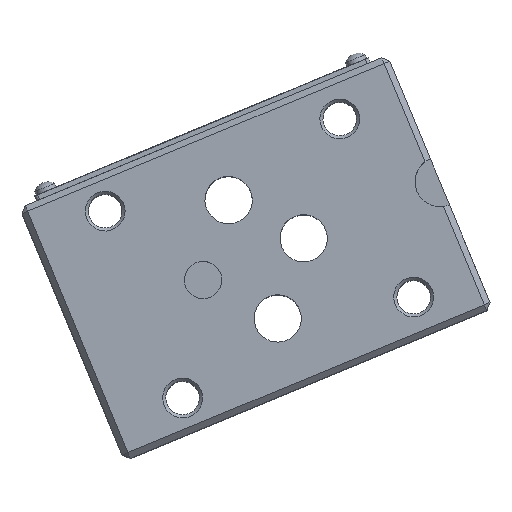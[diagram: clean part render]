
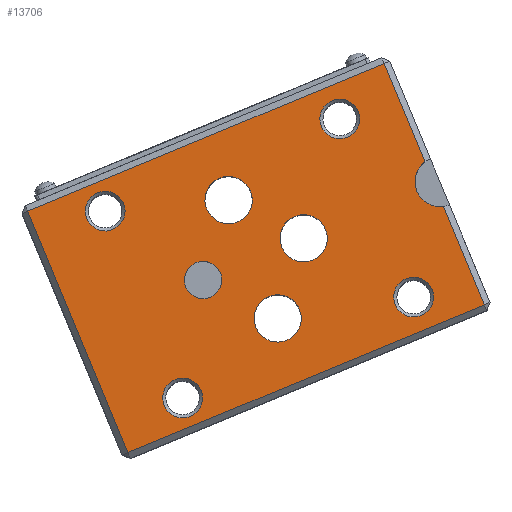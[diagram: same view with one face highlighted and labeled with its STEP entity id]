
A CAD part, top view. The second image highlights one B-rep face of the part: STEP entity #13706.
In plain terms, the highlighted planar face has unit normal (0, 0, 1).
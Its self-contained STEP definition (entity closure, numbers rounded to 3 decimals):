
#9746=LINE('',#40026,#12490);
#9747=LINE('',#40028,#12491);
#9748=LINE('',#40030,#12492);
#9749=LINE('',#40032,#12493);
#9750=LINE('',#40034,#12494);
#12490=VECTOR('',#33368,1.);
#12491=VECTOR('',#33369,1.);
#12492=VECTOR('',#33370,1.);
#12493=VECTOR('',#33371,1.);
#12494=VECTOR('',#33372,1.);
#12651=FACE_BOUND('',#16750,.T.);
#12652=FACE_BOUND('',#16751,.T.);
#12653=FACE_BOUND('',#16752,.T.);
#12654=FACE_BOUND('',#16753,.T.);
#12655=FACE_BOUND('',#16754,.T.);
#12656=FACE_BOUND('',#16755,.T.);
#12657=FACE_BOUND('',#16756,.T.);
#12658=FACE_BOUND('',#16757,.T.);
#12659=FACE_BOUND('',#16758,.T.);
#13706=ADVANCED_FACE('',(#12651,#12652,#12653,#12654,#12655,#12656,#12657,
#12658,#12659),#14646,.T.);
#14646=PLANE('',#28599);
#16750=EDGE_LOOP('',(#22502,#22503,#22504,#22505,#22506,#22507));
#16751=EDGE_LOOP('',(#22508));
#16752=EDGE_LOOP('',(#22509));
#16753=EDGE_LOOP('',(#22510));
#16754=EDGE_LOOP('',(#22511));
#16755=EDGE_LOOP('',(#22512));
#16756=EDGE_LOOP('',(#22513));
#16757=EDGE_LOOP('',(#22514));
#16758=EDGE_LOOP('',(#22515));
#22502=ORIENTED_EDGE('',*,*,#27458,.T.);
#22503=ORIENTED_EDGE('',*,*,#27459,.T.);
#22504=ORIENTED_EDGE('',*,*,#27460,.T.);
#22505=ORIENTED_EDGE('',*,*,#27461,.T.);
#22506=ORIENTED_EDGE('',*,*,#27462,.T.);
#22507=ORIENTED_EDGE('',*,*,#27463,.T.);
#22508=ORIENTED_EDGE('',*,*,#27423,.F.);
#22509=ORIENTED_EDGE('',*,*,#27464,.F.);
#22510=ORIENTED_EDGE('',*,*,#27465,.F.);
#22511=ORIENTED_EDGE('',*,*,#27466,.F.);
#22512=ORIENTED_EDGE('',*,*,#27467,.T.);
#22513=ORIENTED_EDGE('',*,*,#27468,.T.);
#22514=ORIENTED_EDGE('',*,*,#27469,.T.);
#22515=ORIENTED_EDGE('',*,*,#27470,.T.);
#24539=VERTEX_POINT('',#39948);
#24574=VERTEX_POINT('',#40024);
#24575=VERTEX_POINT('',#40025);
#24576=VERTEX_POINT('',#40027);
#24577=VERTEX_POINT('',#40029);
#24578=VERTEX_POINT('',#40031);
#24579=VERTEX_POINT('',#40033);
#24580=VERTEX_POINT('',#40036);
#24581=VERTEX_POINT('',#40038);
#24582=VERTEX_POINT('',#40040);
#24583=VERTEX_POINT('',#40042);
#24584=VERTEX_POINT('',#40044);
#24585=VERTEX_POINT('',#40046);
#24586=VERTEX_POINT('',#40048);
#27423=EDGE_CURVE('',#24539,#24539,#27564,.T.);
#27458=EDGE_CURVE('',#24574,#24575,#27575,.T.);
#27459=EDGE_CURVE('',#24575,#24576,#9746,.T.);
#27460=EDGE_CURVE('',#24576,#24577,#9747,.T.);
#27461=EDGE_CURVE('',#24577,#24578,#9748,.T.);
#27462=EDGE_CURVE('',#24578,#24579,#9749,.T.);
#27463=EDGE_CURVE('',#24579,#24574,#9750,.T.);
#27464=EDGE_CURVE('',#24580,#24580,#27576,.T.);
#27465=EDGE_CURVE('',#24581,#24581,#27577,.T.);
#27466=EDGE_CURVE('',#24582,#24582,#27578,.T.);
#27467=EDGE_CURVE('',#24583,#24583,#27579,.T.);
#27468=EDGE_CURVE('',#24584,#24584,#27580,.T.);
#27469=EDGE_CURVE('',#24585,#24585,#27581,.T.);
#27470=EDGE_CURVE('',#24586,#24586,#27582,.T.);
#27564=CIRCLE('',#28574,3.);
#27575=CIRCLE('',#28591,4.);
#27576=CIRCLE('',#28592,3.8);
#27577=CIRCLE('',#28593,3.8);
#27578=CIRCLE('',#28594,3.8);
#27579=CIRCLE('',#28595,3.2);
#27580=CIRCLE('',#28596,3.2);
#27581=CIRCLE('',#28597,3.2);
#27582=CIRCLE('',#28598,3.2);
#28574=AXIS2_PLACEMENT_3D('',#39947,#33308,#33309);
#28591=AXIS2_PLACEMENT_3D('',#40023,#33366,#33367);
#28592=AXIS2_PLACEMENT_3D('',#40035,#33373,#33374);
#28593=AXIS2_PLACEMENT_3D('',#40037,#33375,#33376);
#28594=AXIS2_PLACEMENT_3D('',#40039,#33377,#33378);
#28595=AXIS2_PLACEMENT_3D('',#40041,#33379,#33380);
#28596=AXIS2_PLACEMENT_3D('',#40043,#33381,#33382);
#28597=AXIS2_PLACEMENT_3D('',#40045,#33383,#33384);
#28598=AXIS2_PLACEMENT_3D('',#40047,#33385,#33386);
#28599=AXIS2_PLACEMENT_3D('',#40049,#33387,#33388);
#33308=DIRECTION('',(0.,0.,1.));
#33309=DIRECTION('',(-0.924,-0.383,0.));
#33366=DIRECTION('',(0.,0.,-1.));
#33367=DIRECTION('',(0.924,0.383,0.));
#33368=DIRECTION('',(-0.383,0.924,0.));
#33369=DIRECTION('',(-0.924,-0.383,0.));
#33370=DIRECTION('',(0.383,-0.924,0.));
#33371=DIRECTION('',(0.924,0.383,0.));
#33372=DIRECTION('',(-0.383,0.924,0.));
#33373=DIRECTION('',(0.,0.,1.));
#33374=DIRECTION('',(-0.924,-0.383,0.));
#33375=DIRECTION('',(0.,0.,1.));
#33376=DIRECTION('',(-0.924,-0.383,0.));
#33377=DIRECTION('',(0.,0.,1.));
#33378=DIRECTION('',(-0.924,-0.383,0.));
#33379=DIRECTION('',(0.,0.,-1.));
#33380=DIRECTION('',(-0.924,-0.383,0.));
#33381=DIRECTION('',(0.,0.,-1.));
#33382=DIRECTION('',(-0.924,-0.383,0.));
#33383=DIRECTION('',(0.,0.,-1.));
#33384=DIRECTION('',(-0.924,-0.383,0.));
#33385=DIRECTION('',(0.,0.,-1.));
#33386=DIRECTION('',(-0.924,-0.383,0.));
#33387=DIRECTION('',(0.,0.,1.));
#33388=DIRECTION('',(0.924,0.383,0.));
#39947=CARTESIAN_POINT('',(352.609,216.335,-30.845));
#39948=CARTESIAN_POINT('',(349.838,215.185,-30.845));
#40023=CARTESIAN_POINT('',(390.667,232.116,-30.845));
#40024=CARTESIAN_POINT('',(391.227,228.156,-30.845));
#40025=CARTESIAN_POINT('',(388.26,235.311,-30.845));
#40026=CARTESIAN_POINT('',(396.9,214.475,-30.845));
#40027=CARTESIAN_POINT('',(381.699,251.131,-30.845));
#40028=CARTESIAN_POINT('',(316.877,224.251,-30.845));
#40029=CARTESIAN_POINT('',(324.428,227.382,-30.845));
#40030=CARTESIAN_POINT('',(339.629,190.725,-30.845));
#40031=CARTESIAN_POINT('',(340.516,188.586,-30.845));
#40032=CARTESIAN_POINT('',(332.965,185.455,-30.845));
#40033=CARTESIAN_POINT('',(397.787,212.335,-30.845));
#40034=CARTESIAN_POINT('',(396.9,214.475,-30.845));
#40035=CARTESIAN_POINT('',(364.591,210.153,-30.845));
#40036=CARTESIAN_POINT('',(361.081,208.697,-30.845));
#40037=CARTESIAN_POINT('',(356.7,229.181,-30.845));
#40038=CARTESIAN_POINT('',(353.19,227.726,-30.845));
#40039=CARTESIAN_POINT('',(368.775,223.038,-30.845));
#40040=CARTESIAN_POINT('',(365.264,221.582,-30.845));
#40041=CARTESIAN_POINT('',(349.32,197.379,-30.845));
#40042=CARTESIAN_POINT('',(346.364,196.153,-30.845));
#40043=CARTESIAN_POINT('',(386.443,213.585,-30.845));
#40044=CARTESIAN_POINT('',(383.487,212.359,-30.845));
#40045=CARTESIAN_POINT('',(374.569,242.22,-30.845));
#40046=CARTESIAN_POINT('',(371.613,240.995,-30.845));
#40047=CARTESIAN_POINT('',(336.87,227.4,-30.845));
#40048=CARTESIAN_POINT('',(333.915,226.174,-30.845));
#40049=CARTESIAN_POINT('',(332.078,187.594,-30.845));
